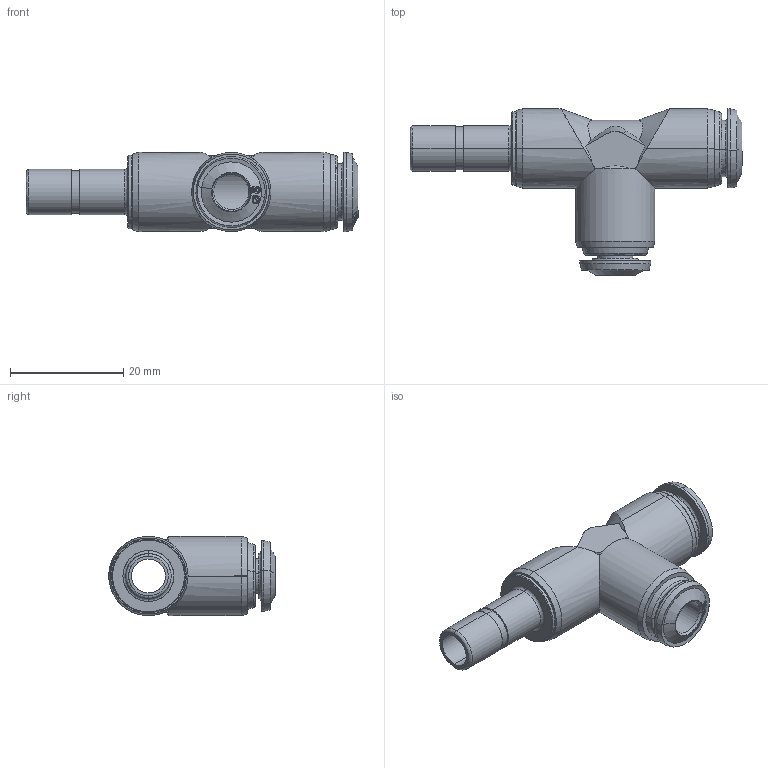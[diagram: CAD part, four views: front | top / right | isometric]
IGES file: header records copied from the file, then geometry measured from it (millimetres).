
Start section: SolidWorks IGES file using analytic representation for surfaces
Global section: file name: C:\Users\cad06\Desktop\Nuova cartella\5523500010A.IGS; native system: SolidWorks 2016; preprocessor: SolidWorks 2016; author: cad06; date: 160512.114521; units: millimetre
Bounding box: 58.7 x 29.4 x 14 mm (x, y, z)
Surface area: 4195.8 mm2 (no closed solid volume)
Topology: 0 solids, 0 shells, 251 faces, 3133 edges, 3133 vertices
Faces by surface type: bspline 164, revolution 87
